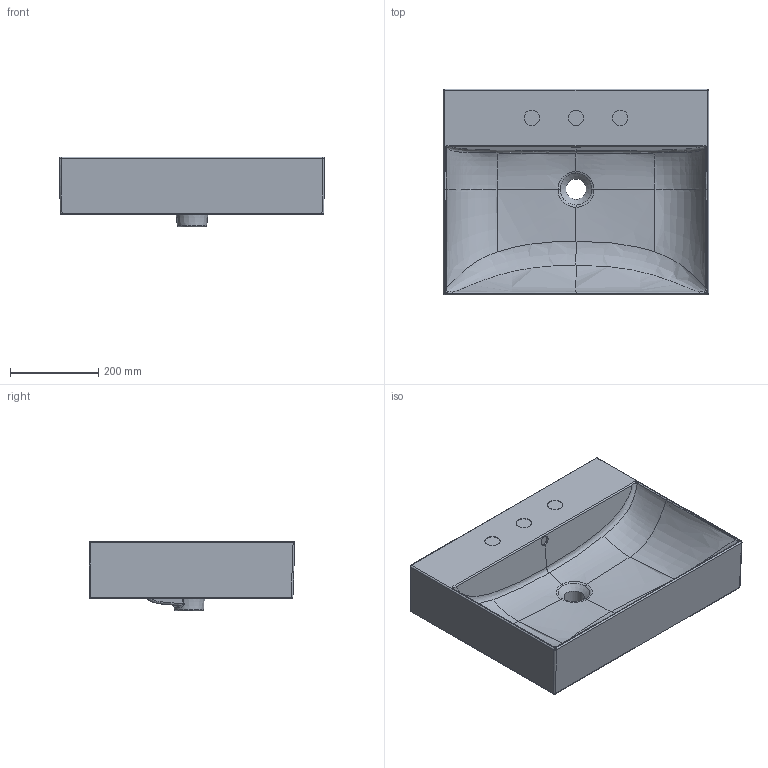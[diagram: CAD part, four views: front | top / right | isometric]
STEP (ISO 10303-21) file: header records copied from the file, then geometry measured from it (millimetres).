
FILE_DESCRIPTION(/* description */ (''),/* implementation_level */ '2;1');
FILE_NAME(/* name */ 'LAVABO_60X46.5_PROTAP_01_20200828.stp',/* time_stamp */ '2020-10-08T13:34:15+02:00',/* author */ (''),/* organization */ (''),/* preprocessor_version */ 'ST-DEVELOPER v16.7',/* originating_system */ 'SIEMENS PLM Software NX 12.0',/* authorisation */ '');
FILE_SCHEMA (('AUTOMOTIVE_DESIGN { 1 0 10303 214 3 1 1 1 }'));
Length unit declared in the file: millimetre
Products named in the file (1): Bera5A889F5Dvfph
Bounding box: 599.84 x 464.89 x 158.02 mm (x, y, z)
Volume: 13201325.5 mm3; surface area: 1029703.9 mm2
Topology: 1 solids, 1 shells, 461 faces, 1117 edges, 657 vertices
Faces by surface type: bspline 274, cylinder 97, plane 47, torus 18, sphere 14, extrusion 8, cone 3
Full cylindrical faces by diameter (mm): 10 x6, 22 x1, 35 x3, 46 x1, 50 x3
Entity records: 35750 total; most frequent: CARTESIAN_POINT 27158, ORIENTED_EDGE 2128, DIRECTION 1195, EDGE_CURVE 1064, VERTEX_POINT 647, B_SPLINE_CURVE_WITH_KNOTS 578, AXIS2_PLACEMENT_3D 513, EDGE_LOOP 509
